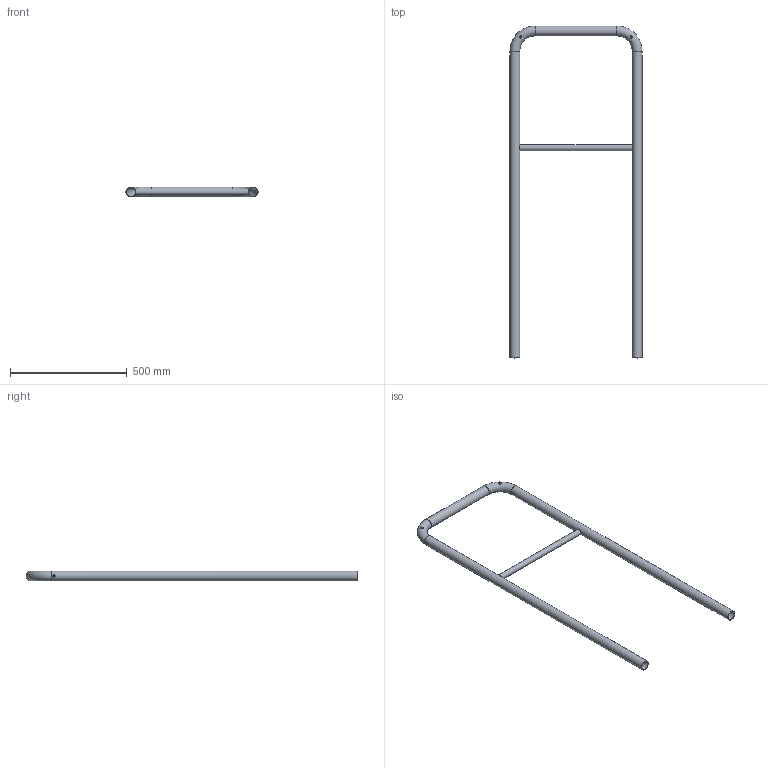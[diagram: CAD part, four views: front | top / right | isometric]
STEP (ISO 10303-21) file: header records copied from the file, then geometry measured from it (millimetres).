
FILE_DESCRIPTION((''),'2;1');
FILE_NAME('S:\Användarkataloger\AndreasA\Mina Inventor filer\Räcken\STEP\modul_ind_600-1400.stp','2010-09-07T13:14:45',('AndreasA'),(''),'Autodesk Inventor 2011','Autodesk Inventor 2011','');
FILE_SCHEMA(('AUTOMOTIVE_DESIGN { 1 0 10303 214 1 1 1 1 }'));
Length unit declared in the file: millimetre
Products named in the file (3): modul_ind_600-1400; handledare_modul_600-1400; mellanliggare_modul_600
Assembly tree (2 placements, depth 2):
  modul_ind_600-1400
    handledare_modul_600-1400
    mellanliggare_modul_600
Bounding box: 565.4 x 1421.2 x 42.4 mm (x, y, z)
Volume: 892716.5 mm3; surface area: 894050.6 mm2
Topology: 2 solids, 2 shells, 24 faces, 64 edges, 40 vertices
Faces by surface type: cylinder 16, torus 4, plane 4
Full cylindrical faces by diameter (mm): 10 x4, 11 x4, 21 x1, 25 x1, 38.4 x3, 42.4 x3
Entity records: 1354 total; most frequent: CARTESIAN_POINT 809, DIRECTION 90, ORIENTED_EDGE 64, EDGE_LOOP 64, AXIS2_PLACEMENT_3D 45, FACE_BOUND 40, VERTEX_POINT 32, EDGE_CURVE 32
